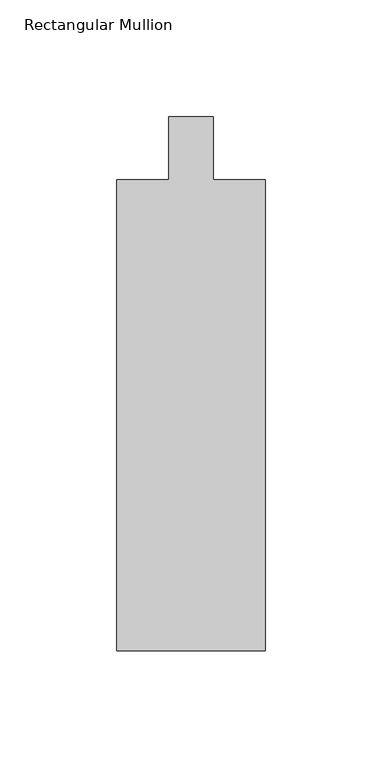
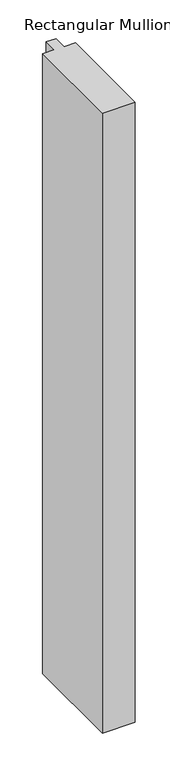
"""IFC4 building model written with IfcOpenShell, lengths in millimetres: member geometry."""

import ifcopenshell
import ifcopenshell.guid

model = None  # the IFC model being written
_history = None  # IfcOwnerHistory: only IFC2X3 demands one
_inside = {}  # id of a spatial element -> (the spatial element, [elements in it])
_under = {}  # id of a project, library or spatial element -> (it, [spatial elements below it])
_declared = {}  # id of a project -> (the project, [libraries it declares])
_typed = {}  # id of a type object -> (the type object, [elements of that type])
_made_of = {}  # id of a material, layer set ... -> (it, [elements and type objects made of it])


def new_model(schema):
    """Start an empty IFC model of exactly this schema.

    Asked for "IFC4X3", IfcOpenShell would pick the latest addendum, in which some entities
    have other attributes; the version numbers below select the first issue.
    IFC2X3 requires an IfcOwnerHistory on every rooted entity: one is made here for all.
    """
    global model, _history
    if schema == "IFC4X3":
        model = ifcopenshell.file(schema_version=(4, 3, 0, 0))
    else:
        model = ifcopenshell.file(schema=schema)
    _inside.clear()
    _under.clear()
    _declared.clear()
    _typed.clear()
    _made_of.clear()
    _history = None
    if model.schema == "IFC2X3":
        org = make("IfcOrganization", Name="unknown")
        user = make(
            "IfcPersonAndOrganization",
            ThePerson=make("IfcPerson", FamilyName="unknown"),
            TheOrganization=org,
        )
        app = make(
            "IfcApplication",
            ApplicationDeveloper=org,
            Version="unknown",
            ApplicationFullName="unknown",
            ApplicationIdentifier="unknown",
        )
        _history = make(
            "IfcOwnerHistory",
            OwningUser=user,
            OwningApplication=app,
            ChangeAction="ADDED",
            CreationDate=0,
        )
    return model


def make(cls, **values):
    """One entity of the class cls with the attributes given. An attribute that is None is left unset."""
    return model.create_entity(
        cls, **{name: value for name, value in values.items() if value is not None}
    )


def rooted(cls, **values):
    """An entity with a GlobalId (a new one), such as an element, a storey or a relation."""
    return make(cls, GlobalId=ifcopenshell.guid.new(), OwnerHistory=_history, **values)


def si_unit(unit_type, name, prefix=None):
    """IfcSIUnit, for example si_unit("LENGTHUNIT", "METRE", prefix="MILLI")."""
    return make("IfcSIUnit", UnitType=unit_type, Prefix=prefix, Name=name)


def assignment(units):
    """IfcUnitAssignment: the units of a project."""
    return None if units is None else make("IfcUnitAssignment", Units=units)


def point(xyz):
    """IfcCartesianPoint."""
    return None if xyz is None else make("IfcCartesianPoint", Coordinates=xyz)


def direction(xyz):
    """IfcDirection."""
    return None if xyz is None else make("IfcDirection", DirectionRatios=xyz)


def frame(location, z_axis=None, x_axis=None):
    """IfcAxis2Placement3D, a coordinate frame: its origin and axes. An axis left out is left unset."""
    return make(
        "IfcAxis2Placement3D",
        Location=point(location),
        Axis=direction(z_axis),
        RefDirection=direction(x_axis),
    )


def origin():
    """The frame at (0, 0, 0) with its axes left unset."""
    return frame((0.0, 0.0, 0.0))


def place(relative_to, where):
    """IfcLocalPlacement: puts the frame where relative to a parent placement (None: the world)."""
    return make(
        "IfcLocalPlacement", PlacementRelTo=relative_to, RelativePlacement=where
    )


def context(
    kind, dimensions, precision=None, world=None, true_north=None, identifier=None
):
    """IfcGeometricRepresentationContext, for example the 3D "Model" context."""
    return make(
        "IfcGeometricRepresentationContext",
        ContextIdentifier=identifier,
        ContextType=kind,
        CoordinateSpaceDimension=dimensions,
        Precision=precision,
        WorldCoordinateSystem=world,
        TrueNorth=true_north,
    )


def project(units=None, contexts=None):
    """IfcProject with its units and contexts."""
    return rooted(
        "IfcProject",
        Name="project",
        RepresentationContexts=contexts,
        UnitsInContext=assignment(units),
    )


def spatial(cls, under=None, at=None, **own):
    """A site, building, storey or space (cls), placed at a placement, below another one or the project."""
    s = rooted(cls, ObjectPlacement=at, **own)
    if under is not None:
        _under.setdefault(under.id(), (under, []))[1].append(s)
    return s


def polyline(points):
    """IfcPolyline through the points."""
    return make("IfcPolyline", Points=[point(p) for p in points])


def outline(outer, holes=None, kind="AREA"):
    """IfcArbitraryClosedProfileDef: a profile drawn as a closed curve; with holes, ...WithVoids."""
    if holes is None:
        return make("IfcArbitraryClosedProfileDef", ProfileType=kind, OuterCurve=outer)
    return make(
        "IfcArbitraryProfileDefWithVoids",
        ProfileType=kind,
        OuterCurve=outer,
        InnerCurves=holes,
    )


def extrude(swept, where, along, depth):
    """IfcExtrudedAreaSolid: the profile swept, set in the frame where, extruded along a direction by depth."""
    return make(
        "IfcExtrudedAreaSolid",
        SweptArea=swept,
        Position=where,
        ExtrudedDirection=direction(along),
        Depth=depth,
    )


def shape(context_of_items, identifier, shape_type, items):
    """IfcShapeRepresentation: the items that make up one representation, for example the "Body"."""
    return make(
        "IfcShapeRepresentation",
        ContextOfItems=context_of_items,
        RepresentationIdentifier=identifier,
        RepresentationType=shape_type,
        Items=items,
    )


def source(mapping_origin, context_of_items, identifier, shape_type, items):
    """IfcRepresentationMap: a shape defined once, which mapped items show again and again."""
    return make(
        "IfcRepresentationMap",
        MappingOrigin=mapping_origin,
        MappedRepresentation=shape(context_of_items, identifier, shape_type, items),
    )


def transform(
    local_origin,
    x_axis=None,
    y_axis=None,
    z_axis=None,
    scale=None,
    scale2=None,
    scale3=None,
    uniform=True,
):
    """IfcCartesianTransformationOperator3D, or its non-uniform kind. x_axis, y_axis, z_axis: its Axis1, 2, 3."""
    if uniform:
        return make(
            "IfcCartesianTransformationOperator3D",
            Axis1=direction(x_axis),
            Axis2=direction(y_axis),
            LocalOrigin=point(local_origin),
            Scale=scale,
            Axis3=direction(z_axis),
        )
    return make(
        "IfcCartesianTransformationOperator3DnonUniform",
        Axis1=direction(x_axis),
        Axis2=direction(y_axis),
        LocalOrigin=point(local_origin),
        Scale=scale,
        Axis3=direction(z_axis),
        Scale2=scale2,
        Scale3=scale3,
    )


def mapped(mapping_source, mapping_target):
    """IfcMappedItem: shows the shape of a source again, moved by a transform."""
    return make(
        "IfcMappedItem", MappingSource=mapping_source, MappingTarget=mapping_target
    )


def made_of(thing, what):
    """Note that an element or type object is made of a material, layer set ...; save() writes the relation."""
    if what is not None:
        _made_of.setdefault(what.id(), (what, []))[1].append(thing)
    return thing


def element(
    cls,
    number,
    at=None,
    inside=None,
    cuts=None,
    type_object=None,
    material=None,
    context=None,
    identifier="Body",
    shape_type=None,
    held_by="IfcProductDefinitionShape",
    body=None,
    shapes=None,
    **own,
):
    """One element of the class cls, such as IfcWall. Its Tag is "e" and its number.

    at: its placement. inside: the storey or other place that contains it. cuts: it is an
    opening in that element (IfcRelVoidsElement). A single representation is given by context,
    identifier, shape_type and body (its items); several are given by shapes. held_by: the class
    of the entity that holds the representations. save() writes the other relations.
    """
    e = rooted(cls, Tag="e%d" % number, ObjectPlacement=at, **own)
    if body is not None:
        shapes = [shape(context, identifier, shape_type, body)]
    if shapes is not None:
        e.Representation = make(held_by, Representations=shapes)
    if inside is not None:
        _inside.setdefault(inside.id(), (inside, []))[1].append(e)
    if cuts is not None:
        rooted(
            "IfcRelVoidsElement", RelatingBuildingElement=cuts, RelatedOpeningElement=e
        )
    if type_object is not None:
        _typed.setdefault(type_object.id(), (type_object, []))[1].append(e)
    return made_of(e, material)


def aggregate(whole, parts):
    """IfcRelAggregates: a whole, such as a stair, and the parts it consists of."""
    return rooted("IfcRelAggregates", RelatingObject=whole, RelatedObjects=parts)


def save(model, path):
    """Write the relations noted so far, then the file.

    IfcRelAggregates (storeys below a building ...), IfcRelContainedInSpatialStructure (elements
    in a storey), IfcRelDefinesByType, IfcRelAssociatesMaterial and IfcRelDeclares: one each for
    every whole, place, type object, material and project.
    """
    for whole, parts in _under.values():
        aggregate(whole, parts)
    for where, things in _inside.values():
        rooted(
            "IfcRelContainedInSpatialStructure",
            RelatedElements=things,
            RelatingStructure=where,
        )
    for kind, things in _typed.values():
        rooted("IfcRelDefinesByType", RelatedObjects=things, RelatingType=kind)
    for what, things in _made_of.values():
        rooted("IfcRelAssociatesMaterial", RelatedObjects=things, RelatingMaterial=what)
    for by, libraries in _declared.values():
        rooted("IfcRelDeclares", RelatingContext=by, RelatedDefinitions=libraries)
    model.write(path)


def rectangular_mullion_174cf47c(model_context):
    return source(origin(), model_context, "Body", "SweptSolid", [
        extrude(outline(polyline([(0.0, -228.6), (-63.5, -228.6), (-63.5, -26.9875), (-41.275, -26.9875), (-41.275, 0.0), (-22.225, 0.0), (-22.225, -26.9875), (0.0, -26.9875), (0.0, -228.6)])), frame((0.0, 0.0, -1276.35), z_axis=(0.0, 0.0, 1.0), x_axis=(1.0, 0.0, 0.0)), (0.0, 0.0, 1.0), 1276.35),
    ])


if __name__ == "__main__":
    model = new_model("IFC4")
    model_context = context("Model", 3, world=origin())
    ifc_project = project(units=[si_unit("LENGTHUNIT", "METRE", prefix="MILLI")], contexts=[model_context])
    site = spatial("IfcSite", under=ifc_project)
    building = spatial("IfcBuilding", under=site)
    placement = place(None, origin())
    rectangular_mullion_shape = rectangular_mullion_174cf47c(model_context)
    element("IfcMember", 1, ObjectType="Rectangular Mullion : 2 1/2\" x 8\" - Capless", at=placement, inside=building, context=model_context, shape_type="MappedRepresentation", body=[
        mapped(rectangular_mullion_shape, transform((0.0, 0.0, 0.0), x_axis=(1.0, 0.0, 0.0), y_axis=(0.0, 1.0, 0.0), z_axis=(0.0, 0.0, 1.0))),
    ])
    save(model, "model.ifc")
